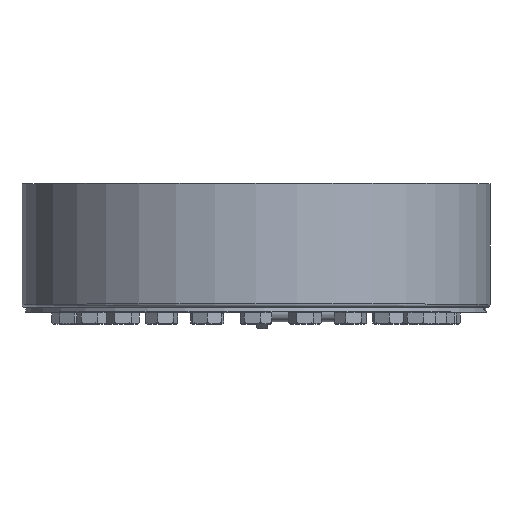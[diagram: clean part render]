
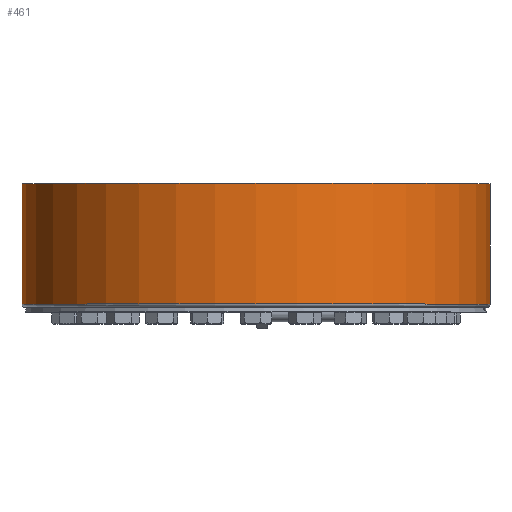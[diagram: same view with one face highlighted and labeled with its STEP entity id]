
A CAD part, top view. The second image highlights one B-rep face of the part: STEP entity #461.
In plain terms, the highlighted cylindrical face has radius 295 mm (diameter 590 mm), a full revolution.
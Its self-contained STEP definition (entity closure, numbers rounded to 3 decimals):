
#461 = ADVANCED_FACE( '', ( #721, #722 ), #723, .T. );
#721 = FACE_OUTER_BOUND( '', #947, .T. );
#722 = FACE_OUTER_BOUND( '', #948, .T. );
#723 = CYLINDRICAL_SURFACE( '', #949, 295. );
#947 = EDGE_LOOP( '', ( #1207 ) );
#948 = EDGE_LOOP( '', ( #1208 ) );
#949 = AXIS2_PLACEMENT_3D( '', #1209, #1210, #1211 );
#1207 = ORIENTED_EDGE( '', *, *, #1668, .T. );
#1208 = ORIENTED_EDGE( '', *, *, #1651, .T. );
#1209 = CARTESIAN_POINT( '', ( 0., -60., 0. ) );
#1210 = DIRECTION( '', ( 0., 1., 0. ) );
#1211 = DIRECTION( '', ( 0., 0., -1. ) );
#1651 = EDGE_CURVE( '', #1816, #1816, #1817, .T. );
#1668 = EDGE_CURVE( '', #1850, #1850, #1851, .F. );
#1816 = VERTEX_POINT( '', #1973 );
#1817 = CIRCLE( '', #1974, 295. );
#1850 = VERTEX_POINT( '', #2010 );
#1851 = CIRCLE( '', #2011, 295. );
#1973 = CARTESIAN_POINT( '', ( 0., 162., -295. ) );
#1974 = AXIS2_PLACEMENT_3D( '', #2180, #2181, #2182 );
#2010 = CARTESIAN_POINT( '', ( 0., 10., -295. ) );
#2011 = AXIS2_PLACEMENT_3D( '', #2225, #2226, #2227 );
#2180 = CARTESIAN_POINT( '', ( 0., 162., 0. ) );
#2181 = DIRECTION( '', ( 0., -1., 0. ) );
#2182 = DIRECTION( '', ( 0., 0., -1. ) );
#2225 = CARTESIAN_POINT( '', ( 0., 10., 0. ) );
#2226 = DIRECTION( '', ( 0., -1., 0. ) );
#2227 = DIRECTION( '', ( 0., 0., -1. ) );
